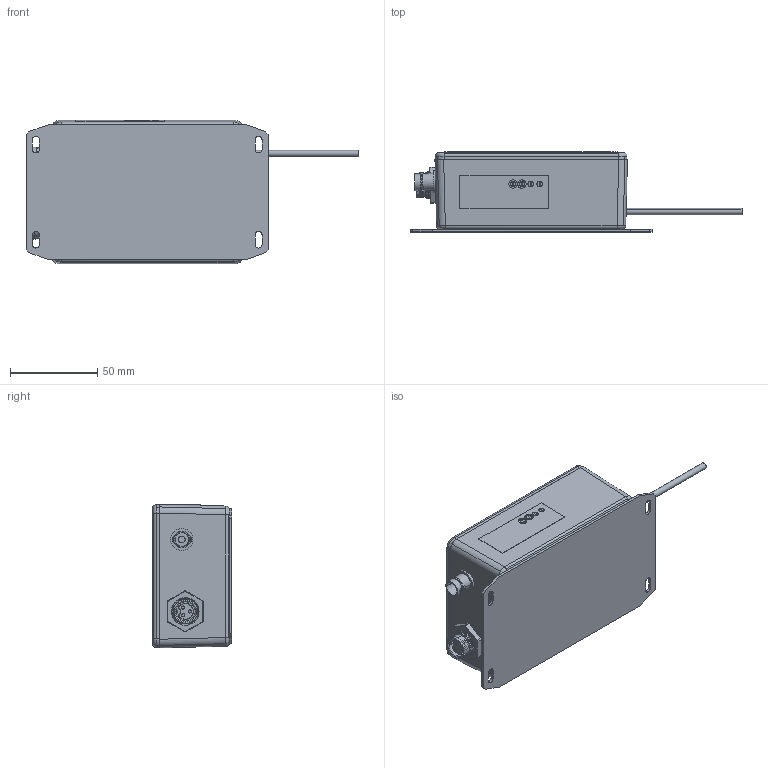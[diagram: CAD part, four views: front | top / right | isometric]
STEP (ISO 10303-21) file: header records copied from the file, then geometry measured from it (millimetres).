
FILE_DESCRIPTION (( 'STEP AP203' ), '1' );
FILE_NAME ('D-Q - Rev A.STEP', '2018-01-31T19:30:01', ( '' ), ( '' ), 'SwSTEP 2.0', 'SolidWorks 2018', '' );
FILE_SCHEMA (( 'CONFIG_CONTROL_DESIGN' ));
Length unit declared in the file: inch
Products named in the file (13): 1590SF; EN3P3FX; D-Q Control Label; PE4014; D-Q Top Label; DQ- FO Cable End; 1590S Box - DQ Rev G; Adjustment Screw; 1590S Lid; D-Label Pot Cover; SC530 (screw #6-32X 1_2'''' FH); D-Q - Rev A; 1590S Flange
Assembly tree (19 placements, depth 3):
  D-Q - Rev A
    1590SF
      1590S Box - DQ Rev G
      1590S Lid
      SC530 (screw #6-32X 1_2'''' FH)  x4
      1590S Flange
    EN3P3FX
    PE4014
    D-Q Control Label
    D-Q Top Label
    DQ- FO Cable End
    Adjustment Screw  x4
    D-Label Pot Cover  x2
Bounding box: 190.59 x 45.86 x 82.57 mm (x, y, z)
Volume: 107159.8 mm3; surface area: 111891.7 mm2
Topology: 20 solids, 22 shells, 1213 faces, 3201 edges, 2082 vertices
Faces by surface type: plane 647, cylinder 333, bspline 101, cone 95, sphere 20, torus 17
Entity records: 43775 total; most frequent: CARTESIAN_POINT 15719, ORIENTED_EDGE 5842, DIRECTION 5041, EDGE_CURVE 2921, VERTEX_POINT 1904, AXIS2_PLACEMENT_3D 1693, VECTOR 1655, LINE 1655
